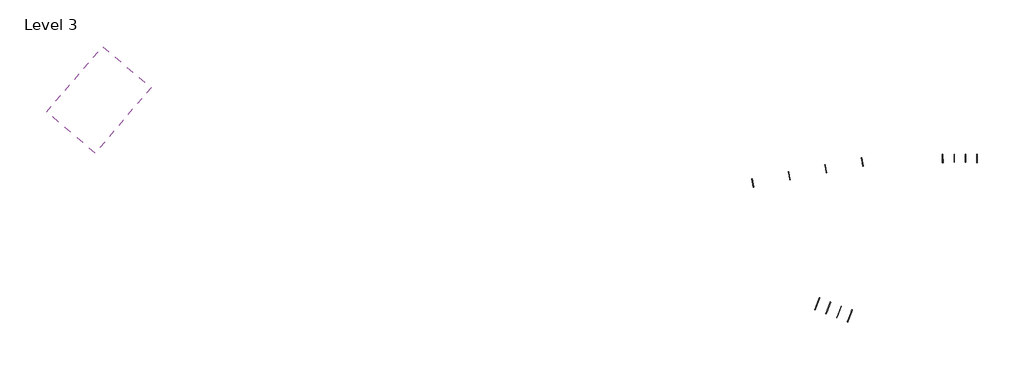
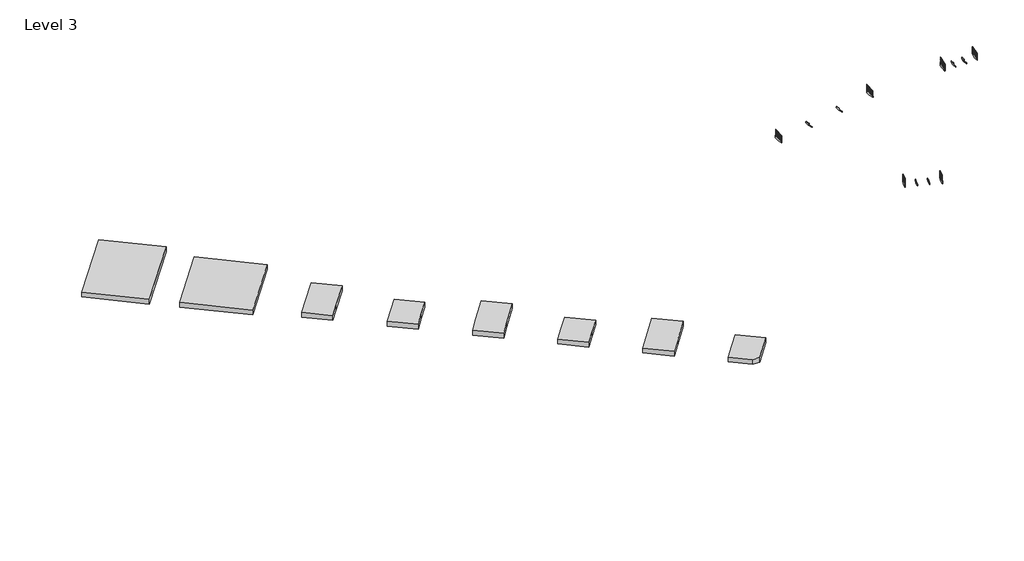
# One storey: 12 members, 6 railings, 1 proxy.
"""IFC4 building model written with IfcOpenShell, lengths in millimetres."""

from ifc_helpers import new_model, si_unit, frame, origin, place, context, project, spatial, polyline, outline, extrude, transform, mapped, element, save
from components import generic_models_13_generic_models_13_95c075da, railing_900mm_pipe_2ea46158, railing_900mm_pipe_ac547a56, railing_900mm_pipe_ec52811f, railing_900mm_pipe_61c9bbe0, railing_900mm_pipe_be1fdf7d, railing_900mm_pipe_c620c1c9

model = new_model("IFC4")

# Units and contexts
model_context = context("Model", 3, world=origin())
ifc_project = project(units=[si_unit("LENGTHUNIT", "METRE", prefix="MILLI")], contexts=[model_context])

# Site, building, storey
site = spatial("IfcSite", under=ifc_project)
building = spatial("IfcBuilding", under=site)
storey = spatial("IfcBuildingStorey", under=building, Name="Level 3", Elevation=8400.0)

# Proxy
placement = place(None, origin())
generic_models_13_generic_models_13_shape = generic_models_13_generic_models_13_95c075da(model_context)
element("IfcBuildingElementProxy", 1, Name="Generic Models 13 : Generic Models 13", ObjectType="Generic Models 13 : Generic Models 13", at=placement, inside=storey, context=model_context, shape_type="MappedRepresentation", body=[
    mapped(generic_models_13_generic_models_13_shape, transform((0.0, 0.0, 0.0), x_axis=(1.0, 0.0, 0.0), y_axis=(0.0, 1.0, 0.0), z_axis=(0.0, 0.0, 1.0))),
])

# Members
element("IfcMember", 2, ObjectType="Stringer - Miscellaneous - 50 mm Width", at=placement, inside=storey, context=model_context, shape_type="SweptSolid", body=[
    extrude(outline(polyline([(-58.1074437, -190.6980903), (0.0, 0.0), (1230.2416303, 0.0), (1108.3579897, -400.0000001), (628.7834588, -400.0), (-58.1074437, -190.6980903)])), frame((952438.0949895, -6332.2858116, 8599.3545501), z_axis=(0.982198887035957, 0.18784394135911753, 0.0), x_axis=(-0.17968730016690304, 0.9395494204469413, 0.29147789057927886)), (0.0, 0.0, 1.0), 50.0),
])
element("IfcMember", 3, ObjectType="Stringer - Miscellaneous - 50 mm Width", at=placement, inside=storey, context=model_context, shape_type="SweptSolid", body=[
    extrude(outline(polyline([(-58.1074437, -190.6980903), (0.0, 0.0), (1230.2416302, 0.0), (1108.3579896, -400.0), (628.7834588, -400.0), (-58.1074437, -190.6980903)])), frame((967548.3459722, -3442.4748609, 8599.3545501), z_axis=(0.9821988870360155, 0.18784394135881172, 0.0), x_axis=(-0.17968730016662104, 0.9395494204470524, 0.2914778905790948)), (0.0, 0.0, 1.0), 50.0),
])
element("IfcMember", 4, ObjectType="Carriage - Miscellaneous - 50 mm Width", at=placement, inside=storey, context=model_context, shape_type="SweptSolid", body=[
    extrude(outline(polyline([(1157.5602921, -238.5269686), (1108.3579897, -400.0000001), (628.7834588, -400.0), (-27.0186728, -200.1711217), (10.6677039, -76.4912694), (573.5282478, -248.0), (625.788519, -76.4912694), (1157.5602921, -238.5269686)])), frame((962503.410654, -4407.310544, 8599.3545501), z_axis=(0.9821988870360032, 0.1878439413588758, 0.0), x_axis=(-0.17968730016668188, 0.9395494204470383, 0.29147789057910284)), (0.0, 0.0, 1.0), 50.0),
])
element("IfcMember", 5, ObjectType="Carriage - Miscellaneous - 50 mm Width", at=placement, inside=storey, context=model_context, shape_type="SweptSolid", body=[
    extrude(outline(polyline([(1157.560292, -238.5269685), (1108.3579896, -400.0), (628.7834588, -400.0), (-27.0186729, -200.1711217), (10.6677038, -76.4912694), (573.5282477, -248.0), (625.788519, -76.4912694), (1157.560292, -238.5269685)])), frame((957483.0303078, -5367.4501285, 8599.3545501), z_axis=(0.9821988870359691, 0.18784394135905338, 0.0), x_axis=(-0.17968730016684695, 0.9395494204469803, 0.2914778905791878)), (0.0, 0.0, 1.0), 50.0),
])
element("IfcMember", 6, ObjectType="Stringer - Miscellaneous - 50 mm Width", at=placement, inside=storey, context=model_context, shape_type="SweptSolid", body=[
    extrude(outline(polyline([(-2958.8436153, 8400.0), (-2958.8436153, 8599.3545501), (-1782.0220713, 8957.9427854), (-1782.0220713, 8539.7853726), (-2240.7723087, 8400.0), (-2958.8436153, 8400.0)])), frame((978455.0368874, 0.0, 0.0), z_axis=(1.0, 0.0, 0.0), x_axis=(0.0, 1.0, 0.0)), (0.0, 0.0, 1.0), 50.0),
])
element("IfcMember", 7, ObjectType="Stringer - Miscellaneous - 50 mm Width", at=placement, inside=storey, context=model_context, shape_type="SweptSolid", body=[
    extrude(outline(polyline([(-2958.8436153, 8400.0), (-2958.8436153, 8599.3545501), (-1782.0220713, 8957.9427854), (-1782.0220713, 8539.7853726), (-2240.7723087, 8400.0), (-2958.8436153, 8400.0)])), frame((983209.4192027, 0.0, 0.0), z_axis=(1.0, 0.0, 0.0), x_axis=(0.0, 1.0, 0.0)), (0.0, 0.0, 1.0), 50.0),
])
element("IfcMember", 8, ObjectType="Carriage - Miscellaneous - 50 mm Width", at=placement, inside=storey, context=model_context, shape_type="SweptSolid", body=[
    extrude(outline(polyline([(-1782.0220713, 8708.5882353), (-1782.0220713, 8539.7853726), (-2240.7723087, 8400.0), (-2926.3436153, 8400.0), (-2926.3436153, 8529.2941176), (-2337.9328433, 8529.2941176), (-2337.9328433, 8708.5882353), (-1782.0220713, 8708.5882353)])), frame((981616.2917643, 0.0, 0.0), z_axis=(1.0, 0.0, 0.0), x_axis=(0.0, 1.0, 0.0)), (0.0, 0.0, 1.0), 50.0),
])
element("IfcMember", 9, ObjectType="Carriage - Miscellaneous - 50 mm Width", at=placement, inside=storey, context=model_context, shape_type="SweptSolid", body=[
    extrude(outline(polyline([(-1782.0220713, 8708.5882353), (-1782.0220713, 8539.7853726), (-2240.7723087, 8400.0), (-2926.3436153, 8400.0), (-2926.3436153, 8529.2941176), (-2337.9328433, 8529.2941176), (-2337.9328433, 8708.5882353), (-1782.0220713, 8708.5882353)])), frame((980048.1643258, 0.0, 0.0), z_axis=(1.0, 0.0, 0.0), x_axis=(0.0, 1.0, 0.0)), (0.0, 0.0, 1.0), 50.0),
])
element("IfcMember", 10, ObjectType="Stringer - Miscellaneous - 50 mm Width", at=placement, inside=storey, context=model_context, shape_type="SweptSolid", body=[
    extrude(outline(polyline([(-58.1074437, -190.6980903), (0.0, 0.0), (1845.3624454, 1e-07), (1723.4788048, -400.0), (628.7834588, -400.0), (-58.1074437, -190.6980903)])), frame((966082.4980616, -23227.1881347, 8599.3545501), z_axis=(-0.93479676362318, 0.3551830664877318, 0.0), x_axis=(-0.3397601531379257, -0.8942056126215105, 0.2914778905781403)), (0.0, 0.0, 1.0), 50.0),
])
element("IfcMember", 11, ObjectType="Stringer - Miscellaneous - 50 mm Width", at=placement, inside=storey, context=model_context, shape_type="SweptSolid", body=[
    extrude(outline(polyline([(-58.1074437, -190.6980903), (0.0, 0.0), (1845.3624454, 1e-07), (1723.4788048, -400.0), (628.7834587, -400.0), (-58.1074437, -190.6980903)])), frame((961571.4484314, -21513.1808734, 8599.3545501), z_axis=(-0.9347967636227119, 0.35518306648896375, 0.0), x_axis=(-0.3397601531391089, -0.8942056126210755, 0.291477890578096)), (0.0, 0.0, 1.0), 50.0),
])
element("IfcMember", 12, ObjectType="Carriage - Miscellaneous - 50 mm Width", at=placement, inside=storey, context=model_context, shape_type="SweptSolid", body=[
    extrude(outline(polyline([(1772.6811071, -238.5269686), (1723.4788048, -400.0), (628.7834588, -400.0), (-27.0186729, -200.1711217), (10.6677038, -76.4912694), (573.5282478, -248.0), (625.788519, -76.4912694), (1188.6490629, -248.0), (1240.9093341, -76.4912694), (1772.6811071, -238.5269686)])), frame((963082.9216145, -22087.476486, 8599.3545501), z_axis=(-0.9347967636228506, 0.3551830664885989, 0.0), x_axis=(-0.3397601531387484, -0.8942056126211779, 0.2914778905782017)), (0.0, 0.0, 1.0), 50.0),
])
element("IfcMember", 13, ObjectType="Carriage - Miscellaneous - 50 mm Width", at=placement, inside=storey, context=model_context, shape_type="SweptSolid", body=[
    extrude(outline(polyline([(1772.6811071, -238.5269686), (1723.4788048, -400.0), (628.7834588, -400.0), (-27.0186728, -200.1711217), (10.6677039, -76.4912694), (573.5282478, -248.0), (625.788519, -76.4912694), (1188.6490629, -248.0), (1240.9093341, -76.4912694), (1772.6811071, -238.5269686)])), frame((964571.0248785, -22652.892522, 8599.3545501), z_axis=(-0.9347967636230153, 0.35518306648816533, 0.0), x_axis=(-0.33976015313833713, -0.8942056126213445, 0.2914778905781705)), (0.0, 0.0, 1.0), 50.0),
])

# Railings
railing_900mm_pipe_shape = railing_900mm_pipe_2ea46158(model_context)
element("IfcRailing", 14, ObjectType="900mm Pipe", at=placement, inside=storey, context=model_context, shape_type="MappedRepresentation", body=[
    mapped(railing_900mm_pipe_shape, transform((0.0, 0.0, 0.0), x_axis=(1.0, 0.0, 0.0), y_axis=(0.0, 1.0, 0.0), z_axis=(0.0, 0.0, 1.0))),
])
railing_900mm_pipe_2_shape = railing_900mm_pipe_ac547a56(model_context)
element("IfcRailing", 15, ObjectType="900mm Pipe", at=placement, inside=storey, context=model_context, shape_type="MappedRepresentation", body=[
    mapped(railing_900mm_pipe_2_shape, transform((0.0, 0.0, 0.0), x_axis=(1.0, 0.0, 0.0), y_axis=(0.0, 1.0, 0.0), z_axis=(0.0, 0.0, 1.0))),
])
railing_900mm_pipe_3_shape = railing_900mm_pipe_ec52811f(model_context)
element("IfcRailing", 16, ObjectType="900mm Pipe", at=placement, inside=storey, context=model_context, shape_type="MappedRepresentation", body=[
    mapped(railing_900mm_pipe_3_shape, transform((0.0, 0.0, 0.0), x_axis=(1.0, 0.0, 0.0), y_axis=(0.0, 1.0, 0.0), z_axis=(0.0, 0.0, 1.0))),
])
railing_900mm_pipe_4_shape = railing_900mm_pipe_61c9bbe0(model_context)
element("IfcRailing", 17, ObjectType="900mm Pipe", at=placement, inside=storey, context=model_context, shape_type="MappedRepresentation", body=[
    mapped(railing_900mm_pipe_4_shape, transform((0.0, 0.0, 0.0), x_axis=(1.0, 0.0, 0.0), y_axis=(0.0, 1.0, 0.0), z_axis=(0.0, 0.0, 1.0))),
])
railing_900mm_pipe_5_shape = railing_900mm_pipe_be1fdf7d(model_context)
element("IfcRailing", 18, ObjectType="900mm Pipe", at=placement, inside=storey, context=model_context, shape_type="MappedRepresentation", body=[
    mapped(railing_900mm_pipe_5_shape, transform((0.0, 0.0, 0.0), x_axis=(1.0, 0.0, 0.0), y_axis=(0.0, 1.0, 0.0), z_axis=(0.0, 0.0, 1.0))),
])
railing_900mm_pipe_6_shape = railing_900mm_pipe_c620c1c9(model_context)
element("IfcRailing", 19, ObjectType="900mm Pipe", at=placement, inside=storey, context=model_context, shape_type="MappedRepresentation", body=[
    mapped(railing_900mm_pipe_6_shape, transform((0.0, 0.0, 0.0), x_axis=(1.0, 0.0, 0.0), y_axis=(0.0, 1.0, 0.0), z_axis=(0.0, 0.0, 1.0))),
])

save(model, "model.ifc")
